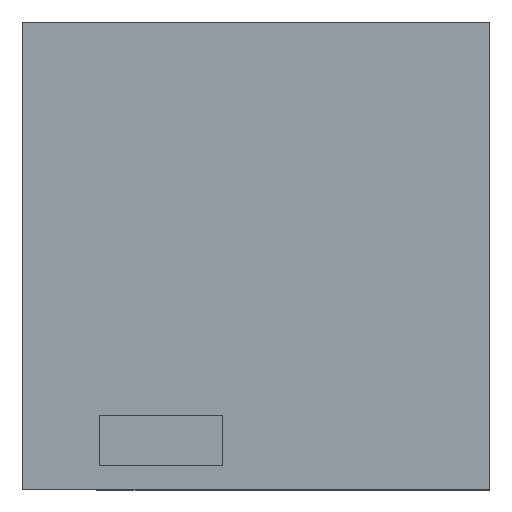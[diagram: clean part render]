
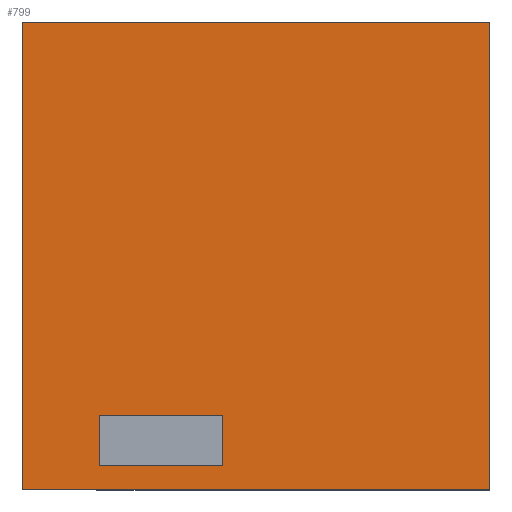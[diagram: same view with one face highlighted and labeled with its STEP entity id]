
A CAD part, top view. The second image highlights one B-rep face of the part: STEP entity #799.
In plain terms, the highlighted planar face has unit normal (0, 0, 1).
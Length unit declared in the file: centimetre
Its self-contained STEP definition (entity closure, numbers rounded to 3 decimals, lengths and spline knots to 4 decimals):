
#21 = VERTEX_POINT ( 'NONE', #592 ) ;
#31 = DIRECTION ( 'NONE',  ( 0., 1., 0. ) ) ;
#34 = VERTEX_POINT ( 'NONE', #47 ) ;
#37 = ORIENTED_EDGE ( 'NONE', *, *, #541, .T. ) ;
#47 = CARTESIAN_POINT ( 'NONE',  ( 427.959, 50.5279, 1000. ) ) ;
#51 = DIRECTION ( 'NONE',  ( 1., 0., 0. ) ) ;
#67 = DIRECTION ( 'NONE',  ( 0., -1., 0. ) ) ;
#68 = VERTEX_POINT ( 'NONE', #99 ) ;
#69 = LINE ( 'NONE', #193, #792 ) ;
#99 = CARTESIAN_POINT ( 'NONE',  ( 427.959, 158.5491, 1000. ) ) ;
#107 = VECTOR ( 'NONE', #819, 100. ) ;
#115 = LINE ( 'NONE', #556, #107 ) ;
#122 = CARTESIAN_POINT ( 'NONE',  ( 1000., 1000., 1000. ) ) ;
#123 = VERTEX_POINT ( 'NONE', #569 ) ;
#130 = VERTEX_POINT ( 'NONE', #812 ) ;
#181 = DIRECTION ( 'NONE',  ( 1., 0., 0. ) ) ;
#186 = CARTESIAN_POINT ( 'NONE',  ( 0., 0., 1000. ) ) ;
#193 = CARTESIAN_POINT ( 'NONE',  ( 0., 1000., 1000. ) ) ;
#202 = VECTOR ( 'NONE', #51, 100. ) ;
#206 = EDGE_CURVE ( 'NONE', #765, #123, #313, .T. ) ;
#212 = CARTESIAN_POINT ( 'NONE',  ( 427.959, 50.5279, 1000. ) ) ;
#244 = EDGE_CURVE ( 'NONE', #123, #690, #270, .T. ) ;
#245 = FACE_OUTER_BOUND ( 'NONE', #513, .T. ) ;
#256 = LINE ( 'NONE', #766, #692 ) ;
#268 = EDGE_CURVE ( 'NONE', #21, #765, #637, .T. ) ;
#270 = LINE ( 'NONE', #122, #469 ) ;
#277 = LINE ( 'NONE', #212, #485 ) ;
#313 = LINE ( 'NONE', #758, #328 ) ;
#322 = DIRECTION ( 'NONE',  ( -1., 0., 0. ) ) ;
#328 = VECTOR ( 'NONE', #675, 100. ) ;
#347 = ORIENTED_EDGE ( 'NONE', *, *, #244, .T. ) ;
#361 = CARTESIAN_POINT ( 'NONE',  ( 164.0447, 158.5491, 1000. ) ) ;
#374 = DIRECTION ( 'NONE',  ( 0., 0., 1. ) ) ;
#377 = DIRECTION ( 'NONE',  ( -1., 0., 0. ) ) ;
#388 = ORIENTED_EDGE ( 'NONE', *, *, #206, .T. ) ;
#394 = CARTESIAN_POINT ( 'NONE',  ( 0., 0., 1000. ) ) ;
#398 = ORIENTED_EDGE ( 'NONE', *, *, #439, .F. ) ;
#413 = EDGE_CURVE ( 'NONE', #478, #130, #115, .T. ) ;
#438 = FACE_BOUND ( 'NONE', #642, .T. ) ;
#439 = EDGE_CURVE ( 'NONE', #130, #34, #624, .T. ) ;
#469 = VECTOR ( 'NONE', #586, 100. ) ;
#473 = ORIENTED_EDGE ( 'NONE', *, *, #413, .F. ) ;
#478 = VERTEX_POINT ( 'NONE', #361 ) ;
#485 = VECTOR ( 'NONE', #31, 100. ) ;
#497 = PLANE ( 'NONE',  #518 ) ;
#504 = ORIENTED_EDGE ( 'NONE', *, *, #268, .T. ) ;
#513 = EDGE_LOOP ( 'NONE', ( #504, #388, #347, #37 ) ) ;
#518 = AXIS2_PLACEMENT_3D ( 'NONE', #186, #374, #181 ) ;
#536 = ORIENTED_EDGE ( 'NONE', *, *, #654, .F. ) ;
#541 = EDGE_CURVE ( 'NONE', #690, #21, #69, .T. ) ;
#556 = CARTESIAN_POINT ( 'NONE',  ( 164.0447, 50.5279, 1000. ) ) ;
#558 = EDGE_CURVE ( 'NONE', #68, #478, #256, .T. ) ;
#569 = CARTESIAN_POINT ( 'NONE',  ( 1000., 0., 1000. ) ) ;
#586 = DIRECTION ( 'NONE',  ( 0., 1., 0. ) ) ;
#592 = CARTESIAN_POINT ( 'NONE',  ( 0., 1000., 1000. ) ) ;
#624 = LINE ( 'NONE', #750, #202 ) ;
#637 = LINE ( 'NONE', #707, #700 ) ;
#642 = EDGE_LOOP ( 'NONE', ( #473, #728, #536, #398 ) ) ;
#654 = EDGE_CURVE ( 'NONE', #34, #68, #277, .T. ) ;
#675 = DIRECTION ( 'NONE',  ( 1., 0., 0. ) ) ;
#690 = VERTEX_POINT ( 'NONE', #730 ) ;
#692 = VECTOR ( 'NONE', #322, 100. ) ;
#700 = VECTOR ( 'NONE', #67, 100. ) ;
#707 = CARTESIAN_POINT ( 'NONE',  ( 0., 1000., 1000. ) ) ;
#728 = ORIENTED_EDGE ( 'NONE', *, *, #558, .F. ) ;
#730 = CARTESIAN_POINT ( 'NONE',  ( 1000., 1000., 1000. ) ) ;
#750 = CARTESIAN_POINT ( 'NONE',  ( 164.0447, 50.5279, 1000. ) ) ;
#758 = CARTESIAN_POINT ( 'NONE',  ( 0., 0., 1000. ) ) ;
#765 = VERTEX_POINT ( 'NONE', #394 ) ;
#766 = CARTESIAN_POINT ( 'NONE',  ( 164.0447, 158.5491, 1000. ) ) ;
#792 = VECTOR ( 'NONE', #377, 100. ) ;
#799 = ADVANCED_FACE ( 'NONE', ( #438, #245 ), #497, .T. ) ;
#812 = CARTESIAN_POINT ( 'NONE',  ( 164.0447, 50.5279, 1000. ) ) ;
#819 = DIRECTION ( 'NONE',  ( 0., -1., 0. ) ) ;
